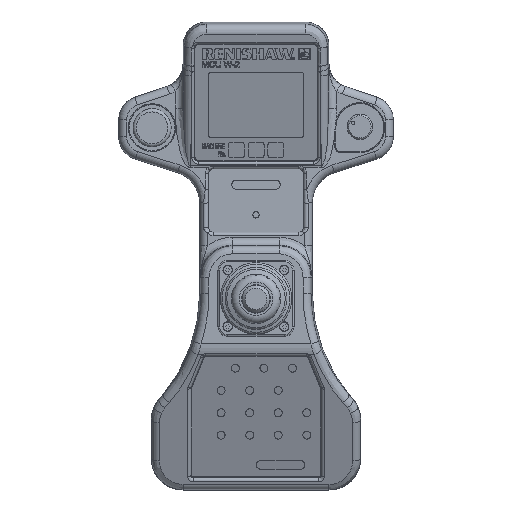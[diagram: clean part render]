
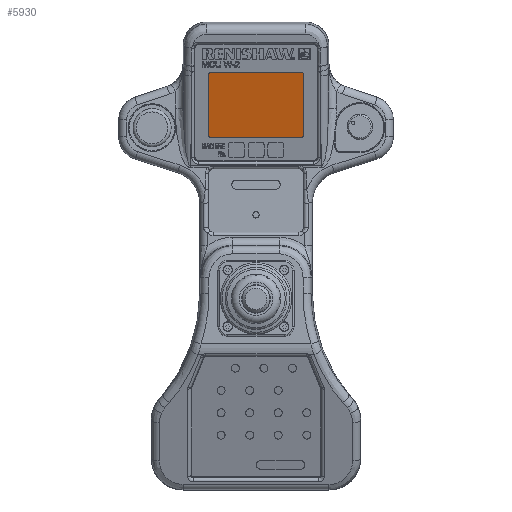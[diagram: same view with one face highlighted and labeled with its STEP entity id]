
A CAD part, top view. The second image highlights one B-rep face of the part: STEP entity #5930.
In plain terms, the highlighted planar face has unit normal (0, -0.265, 0.964).
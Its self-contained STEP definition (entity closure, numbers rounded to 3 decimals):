
#2361=PLANE('',#20173);
#3286=LINE('',#32186,#4299);
#3287=LINE('',#32190,#4300);
#3288=LINE('',#32194,#4301);
#3289=LINE('',#32198,#4302);
#4299=VECTOR('',#22797,1.);
#4300=VECTOR('',#22800,1.);
#4301=VECTOR('',#22803,1.);
#4302=VECTOR('',#22806,1.);
#5014=CIRCLE('',#20169,1.);
#5015=CIRCLE('',#20170,1.);
#5016=CIRCLE('',#20171,1.);
#5017=CIRCLE('',#20172,1.);
#5930=ADVANCED_FACE('',(#7106),#2361,.T.);
#7106=FACE_OUTER_BOUND('',#8203,.T.);
#8203=EDGE_LOOP('',(#11213,#11214,#11215,#11216,#11217,#11218,#11219,#11220));
#11213=ORIENTED_EDGE('',*,*,#17355,.F.);
#11214=ORIENTED_EDGE('',*,*,#17356,.F.);
#11215=ORIENTED_EDGE('',*,*,#17357,.F.);
#11216=ORIENTED_EDGE('',*,*,#17358,.F.);
#11217=ORIENTED_EDGE('',*,*,#17359,.F.);
#11218=ORIENTED_EDGE('',*,*,#17360,.F.);
#11219=ORIENTED_EDGE('',*,*,#17361,.F.);
#11220=ORIENTED_EDGE('',*,*,#17362,.F.);
#15243=VERTEX_POINT('',#32184);
#15244=VERTEX_POINT('',#32185);
#15245=VERTEX_POINT('',#32187);
#15246=VERTEX_POINT('',#32189);
#15247=VERTEX_POINT('',#32191);
#15248=VERTEX_POINT('',#32193);
#15249=VERTEX_POINT('',#32195);
#15250=VERTEX_POINT('',#32197);
#17355=EDGE_CURVE('',#15243,#15244,#5014,.T.);
#17356=EDGE_CURVE('',#15245,#15243,#3286,.T.);
#17357=EDGE_CURVE('',#15246,#15245,#5015,.T.);
#17358=EDGE_CURVE('',#15247,#15246,#3287,.T.);
#17359=EDGE_CURVE('',#15248,#15247,#5016,.T.);
#17360=EDGE_CURVE('',#15249,#15248,#3288,.T.);
#17361=EDGE_CURVE('',#15250,#15249,#5017,.T.);
#17362=EDGE_CURVE('',#15244,#15250,#3289,.T.);
#20169=AXIS2_PLACEMENT_3D('',#32183,#22795,#22796);
#20170=AXIS2_PLACEMENT_3D('',#32188,#22798,#22799);
#20171=AXIS2_PLACEMENT_3D('',#32192,#22801,#22802);
#20172=AXIS2_PLACEMENT_3D('',#32196,#22804,#22805);
#20173=AXIS2_PLACEMENT_3D('',#32199,#22807,#22808);
#22795=DIRECTION('',(0.,0.265,-0.964));
#22796=DIRECTION('',(1.,0.,0.));
#22797=DIRECTION('',(0.,0.964,0.265));
#22798=DIRECTION('',(0.,0.265,-0.964));
#22799=DIRECTION('',(1.,0.,0.));
#22800=DIRECTION('',(-1.,0.,0.));
#22801=DIRECTION('',(0.,0.265,-0.964));
#22802=DIRECTION('',(1.,0.,0.));
#22803=DIRECTION('',(0.,-0.964,-0.265));
#22804=DIRECTION('',(0.,0.265,-0.964));
#22805=DIRECTION('',(1.,0.,0.));
#22806=DIRECTION('',(1.,0.,0.));
#22807=DIRECTION('',(0.,-0.265,0.964));
#22808=DIRECTION('',(1.,0.,0.));
#32183=CARTESIAN_POINT('',(-28.956,141.18,-0.82));
#32184=CARTESIAN_POINT('',(-29.956,141.18,-0.82));
#32185=CARTESIAN_POINT('',(-28.956,142.144,-0.555));
#32186=CARTESIAN_POINT('',(-29.956,102.607,-11.41));
#32187=CARTESIAN_POINT('',(-29.956,102.607,-11.41));
#32188=CARTESIAN_POINT('',(-28.956,102.607,-11.41));
#32189=CARTESIAN_POINT('',(-28.956,101.643,-11.674));
#32190=CARTESIAN_POINT('',(29.044,101.643,-11.674));
#32191=CARTESIAN_POINT('',(29.044,101.643,-11.674));
#32192=CARTESIAN_POINT('',(29.044,102.607,-11.41));
#32193=CARTESIAN_POINT('',(30.044,102.607,-11.41));
#32194=CARTESIAN_POINT('',(30.044,102.607,-11.41));
#32195=CARTESIAN_POINT('',(30.044,141.18,-0.82));
#32196=CARTESIAN_POINT('',(29.044,141.18,-0.82));
#32197=CARTESIAN_POINT('',(29.044,142.144,-0.555));
#32198=CARTESIAN_POINT('',(29.044,142.144,-0.555));
#32199=CARTESIAN_POINT('',(38.544,159.984,4.342));
